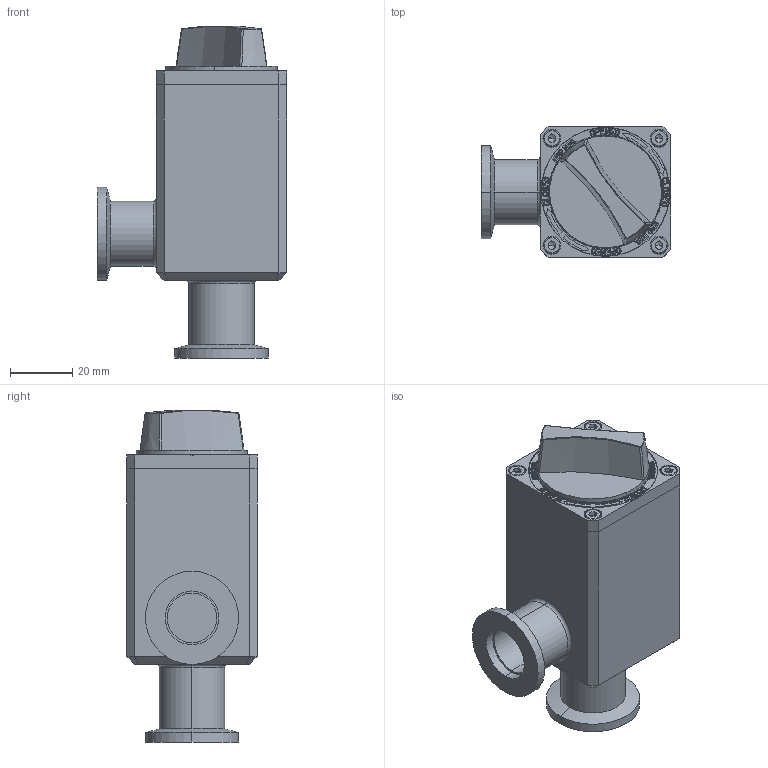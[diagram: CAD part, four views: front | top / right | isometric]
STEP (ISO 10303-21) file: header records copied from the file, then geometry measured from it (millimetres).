
FILE_DESCRIPTION (( 'STEP AP203' ), '1' );
FILE_NAME ('1 KF16忒雄概.STEP', '2023-10-20T06:07:41', ( '' ), ( '' ), 'SwSTEP 2.0', 'SolidWorks 2023', '' );
FILE_SCHEMA (( 'CONFIG_CONTROL_DESIGN' ));
Length unit declared in the file: millimetre
Products named in the file (1): 1 KF16手动阀
Bounding box: 61 x 42 x 106.96 mm (x, y, z)
Surface area: 22839.5 mm2 (no closed solid volume)
Topology: 0 solids, 9 shells, 410 faces, 1701 edges, 1227 vertices
Faces by surface type: plane 252, bspline 83, cylinder 47, cone 14, torus 14
Entity records: 24586 total; most frequent: CARTESIAN_POINT 11950, ORIENTED_EDGE 2449, DIRECTION 2098, EDGE_CURVE 1693, VERTEX_POINT 1227, VECTOR 1096, LINE 1096, AXIS2_PLACEMENT_3D 501
